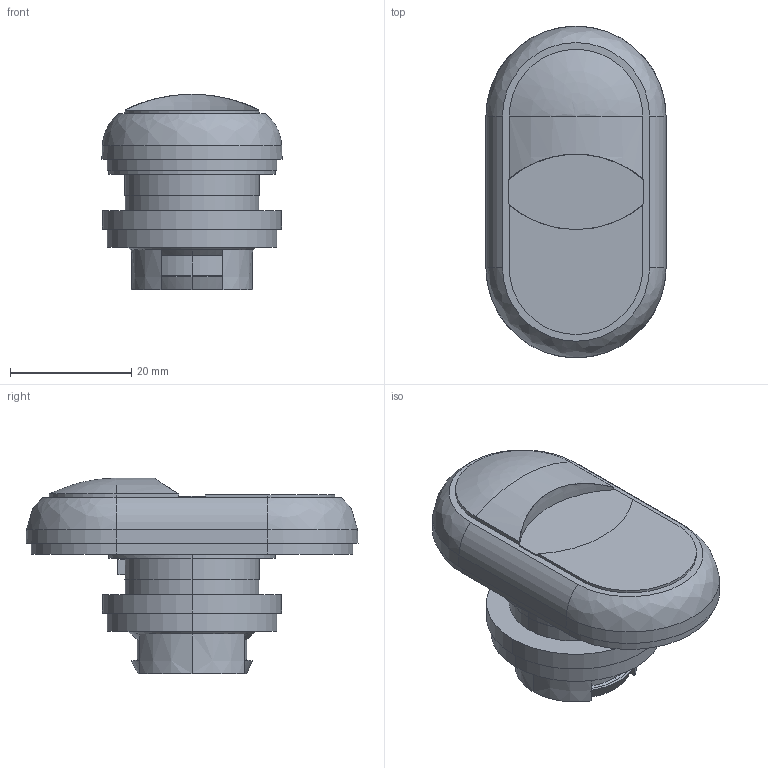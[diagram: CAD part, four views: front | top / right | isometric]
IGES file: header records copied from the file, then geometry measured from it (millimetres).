
Start section: Data from XPlus IGES,  Spatial Corp. Copyright (c) 1999-2004
Global section: file name: 107062.igs; native system:  By Spatial Corp.; preprocessor: XPlus ACIS/IGES 3.0; author: Noname; organization: Noname; date: 20120614.170306; units: millimetre
Bounding box: 29.7 x 54.7 x 32.2 mm (x, y, z)
Surface area: 6165.5 mm2 (no closed solid volume)
Topology: 0 solids, 0 shells, 88 faces, 405 edges, 404 vertices
Faces by surface type: revolution 48, extrusion 40
